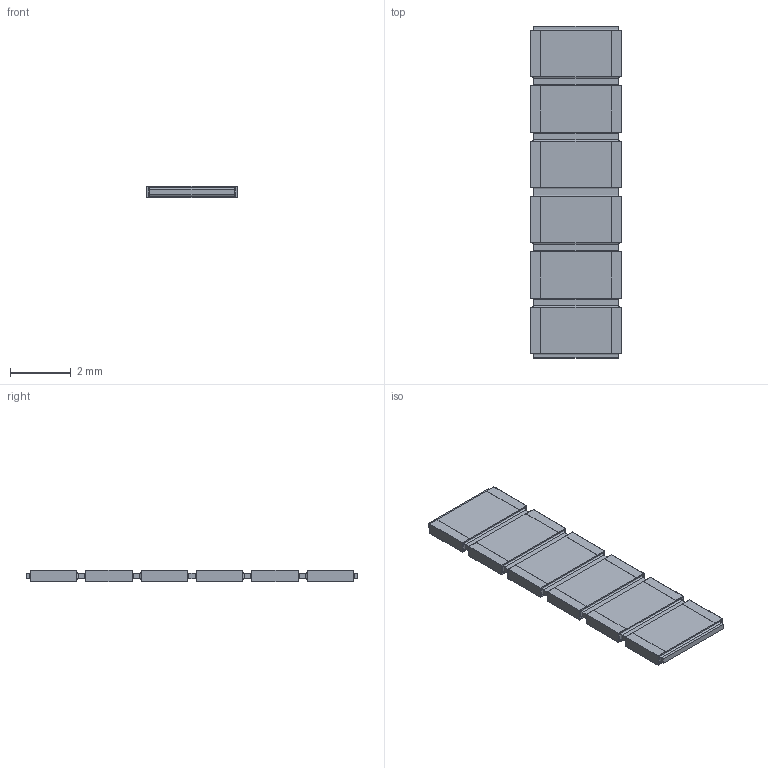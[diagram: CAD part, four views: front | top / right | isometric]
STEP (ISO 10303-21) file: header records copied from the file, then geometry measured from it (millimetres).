
FILE_DESCRIPTION(/* description */ (''),/* implementation_level */ '2;1');
FILE_NAME(/* name */ 'S:\DOCUMENT\AUTOCAD\3D_Modèles\10_3D-pour-VISHAY-COM\PRA\PRAHR182I6_B.stp',/* time_stamp */ '2018-02-02T10:53:16+01:00',/* author */ ('dparmentier'),/* organization */ ('unknown'),/* preprocessor_version */ 'ST-DEVELOPER v17',/* originating_system */ 'Autodesk Inventor 2018',/* authorisation */ '');
FILE_SCHEMA (('AUTOMOTIVE_DESIGN { 1 0 10303 214 3 1 1 }'));
Length unit declared in the file: millimetre
Products named in the file (1): PRAHR182I6_B
Bounding box: 3 x 10.95 x 0.38 mm (x, y, z)
Volume: 11.2 mm3; surface area: 117.7 mm2
Topology: 13 solids, 13 shells, 234 faces, 540 edges, 344 vertices
Faces by surface type: plane 186, cylinder 48
Entity records: 6509 total; most frequent: CARTESIAN_POINT 1119, ORIENTED_EDGE 1080, DIRECTION 1058, EDGE_CURVE 540, LINE 492, VECTOR 492, VERTEX_POINT 344, AXIS2_PLACEMENT_3D 283
